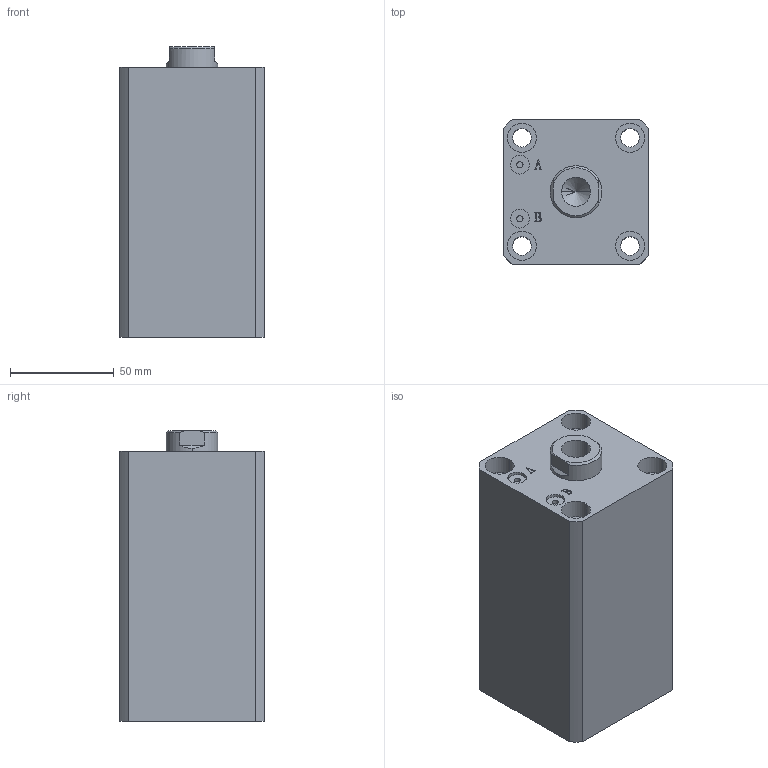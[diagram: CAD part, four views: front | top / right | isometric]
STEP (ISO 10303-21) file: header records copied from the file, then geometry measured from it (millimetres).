
FILE_DESCRIPTION (( 'STEP AP203' ), '1' );
FILE_NAME ('HTB-SDMA40-75N.STEP', '2019-10-07T11:56:13', ( '微软用户' ), ( '微软中国' ), 'SwSTEP 2.0', 'SolidWorks 2012', '' );
FILE_SCHEMA (( 'CONFIG_CONTROL_DESIGN' ));
Length unit declared in the file: millimetre
Products named in the file (3): HTB-SDMA40-75N; HTB-SDMA40-75N活塞杆; HTB-SDMA40-75掛极
Assembly tree (2 placements, depth 2):
  HTB-SDMA40-75N
    HTB-SDMA40-75掛极
    HTB-SDMA40-75N活塞杆
Bounding box: 70 x 70 x 140 mm (x, y, z)
Volume: 535689.4 mm3; surface area: 90397.1 mm2
Topology: 2 solids, 2 shells, 137 faces, 331 edges, 217 vertices
Faces by surface type: plane 65, cylinder 46, bspline 16, torus 6, cone 4
Entity records: 5074 total; most frequent: CARTESIAN_POINT 1580, ORIENTED_EDGE 658, DIRECTION 647, EDGE_CURVE 329, AXIS2_PLACEMENT_3D 232, VERTEX_POINT 217, LINE 183, VECTOR 183
